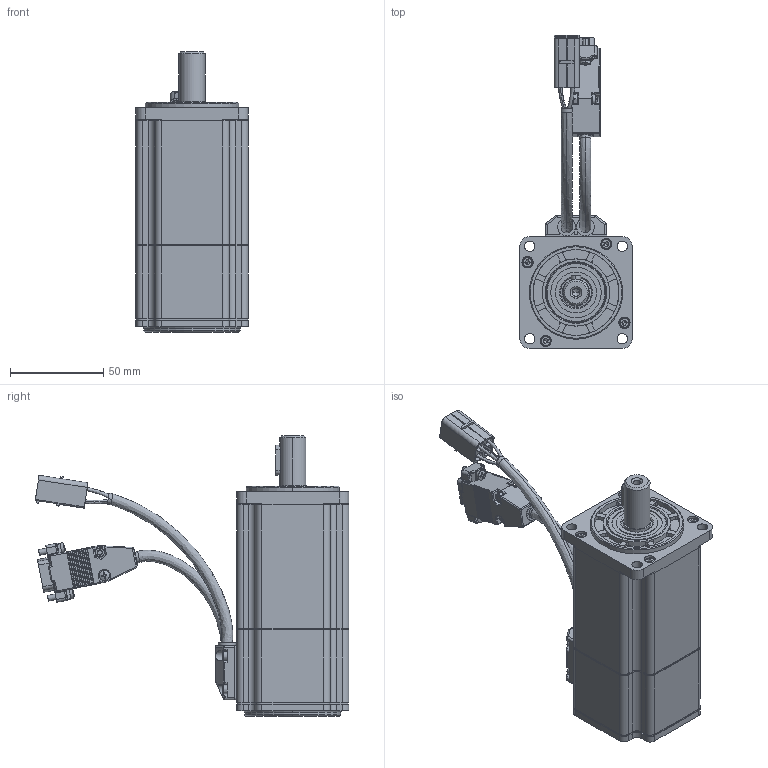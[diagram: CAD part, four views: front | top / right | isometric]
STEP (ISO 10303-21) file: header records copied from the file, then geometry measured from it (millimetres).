
FILE_DESCRIPTION (( 'STEP AP203' ), '1' );
FILE_NAME ('L60-2030X6XNL（SMH60-2030X6XNL-XX）.STEP', '2016-06-04T02:36:04', ( '微软用户' ), ( '微软中国' ), 'SwSTEP 2.0', 'SolidWorks 2011', '' );
FILE_SCHEMA (( 'CONFIG_CONTROL_DESIGN' ));
Products named in the file (20): L60-2030X6XNL（SMH60-2030X6XNL-XX）; 嘎殤蚐猾; hexagon socket head cap screws gb_GB_FASTENER_SCREWS_HSHCS M2.5X10-N; cross recessed countersunk head screws gb1_GB_CROSS_SCREWS_TYPE4 M2.5X10-8.5  H type-N; circlips for holes--type a gb_GB_CONNECTING_PIECE_RING_RRH 32; 瑩; 竘盄碟; 竘盄菜; 鎢攫欶綴裔; 鎢攫欶; 躇猾菜; 蛌赽軞傖; Deep groove ball bearings GB_Rolling bearings 6002 GB 276-94; 蛌赽郪璃_Default; 蛌粣; 隅赽軞傖; hexagon socket head cap screws gb_GB_FASTENER_SCREWS_HSHCS M3X12-N; 儂褲; ヶ傷裔И璃; ヶ傷裔
Assembly tree (29 placements, depth 4):
  L60-2030X6XNL（SMH60-2030X6XNL-XX）
    隅赽軞傖
      hexagon socket head cap screws gb_GB_FASTENER_SCREWS_HSHCS M3X12-N  x4
      儂褲
      ヶ傷裔И璃
      ヶ傷裔
    嘎殤蚐猾
    hexagon socket head cap screws gb_GB_FASTENER_SCREWS_HSHCS M2.5X10-N  x4
    cross recessed countersunk head screws gb1_GB_CROSS_SCREWS_TYPE4 M2.5X10-8.5  H type-N  x4
    circlips for holes--type a gb_GB_CONNECTING_PIECE_RING_RRH 32
    瑩
    竘盄碟
    竘盄菜
    鎢攫欶綴裔
    鎢攫欶
    躇猾菜  x2
    蛌赽軞傖
      蛌赽郪璃_Default
        蛌粣
      Deep groove ball bearings GB_Rolling bearings 6002 GB 276-94
Bounding box: 60 x 167.86 x 150.1 mm (x, y, z)
Volume: 160341.1 mm3; surface area: 113383.6 mm2
Topology: 41 solids, 41 shells, 2283 faces, 6051 edges, 3731 vertices
Faces by surface type: cylinder 964, plane 830, cone 145, sphere 126, bspline 122, torus 96
Entity records: 69240 total; most frequent: CARTESIAN_POINT 18302, DIRECTION 10263, ORIENTED_EDGE 10214, EDGE_CURVE 5107, AXIS2_PLACEMENT_3D 3892, VERTEX_POINT 3227, LINE 2479, VECTOR 2479
